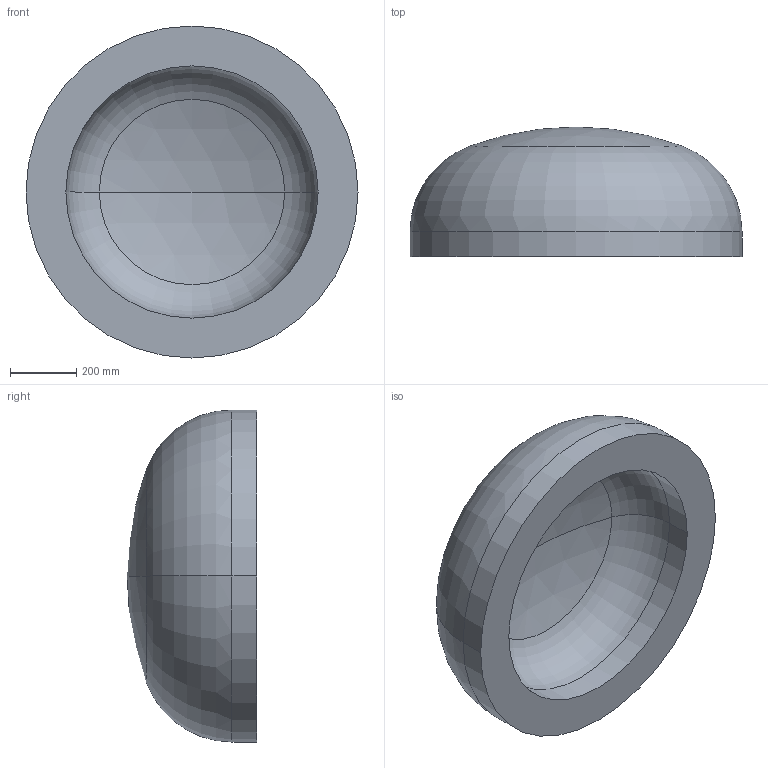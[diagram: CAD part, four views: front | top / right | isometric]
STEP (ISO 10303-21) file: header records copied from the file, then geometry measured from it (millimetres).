
FILE_DESCRIPTION (( 'STEP AP203' ), '1' );
FILE_NAME ('DIN 28013 Korbbogenform_-_Boden DIN 28013 - 1000 x 75 - I - s=120.step', '2016-07-01T08:58:43', ( '' ), ( '' ), 'SwSTEP 2.0', 'SolidWorks 2013', '' );
FILE_SCHEMA (( 'CONFIG_CONTROL_DESIGN' ));
Length unit declared in the file: millimetre
Products named in the file (1): DIN 28013 Korbbogenform_-_Boden DIN 28013 - 1000 x 75 - I - s=120
Bounding box: 1000 x 390.52 x 1000 mm (x, y, z)
Volume: 137775390.5 mm3; surface area: 2658167.7 mm2
Topology: 1 solids, 1 shells, 13 faces, 24 edges, 14 vertices
Faces by surface type: torus 4, cylinder 4, sphere 4, plane 1
Entity records: 407 total; most frequent: DIRECTION 72, CARTESIAN_POINT 52, ORIENTED_EDGE 48, AXIS2_PLACEMENT_3D 34, EDGE_CURVE 24, CIRCLE 20, EDGE_LOOP 14, VERTEX_POINT 14
